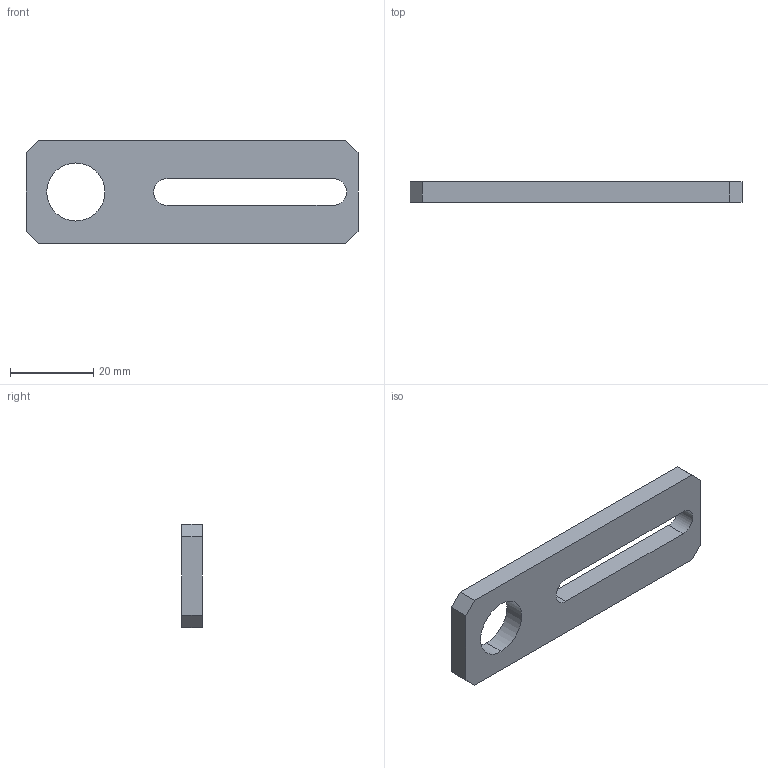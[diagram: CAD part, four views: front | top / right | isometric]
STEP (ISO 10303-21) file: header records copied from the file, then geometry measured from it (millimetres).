
FILE_DESCRIPTION (( 'STEP AP214' ), '1' );
FILE_NAME ('SCF3-40M17.STEP', '2019-11-11T00:48:08', ( '微软用户' ), ( '微软中国' ), 'SwSTEP 2.0', 'SolidWorks 2016', '' );
FILE_SCHEMA (( 'AUTOMOTIVE_DESIGN' ));
Length unit declared in the file: millimetre
Products named in the file (1): SCF3-40M17
Bounding box: 80 x 5 x 25 mm (x, y, z)
Volume: 7674.4 mm3; surface area: 4806.6 mm2
Topology: 1 solids, 1 shells, 16 faces, 42 edges, 28 vertices
Faces by surface type: plane 12, cylinder 4
Entity records: 536 total; most frequent: CARTESIAN_POINT 87, ORIENTED_EDGE 84, DIRECTION 84, EDGE_CURVE 42, LINE 34, VECTOR 34, VERTEX_POINT 28, AXIS2_PLACEMENT_3D 25
